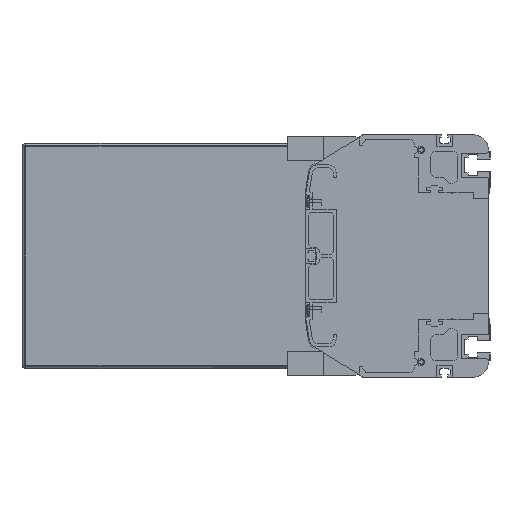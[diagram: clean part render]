
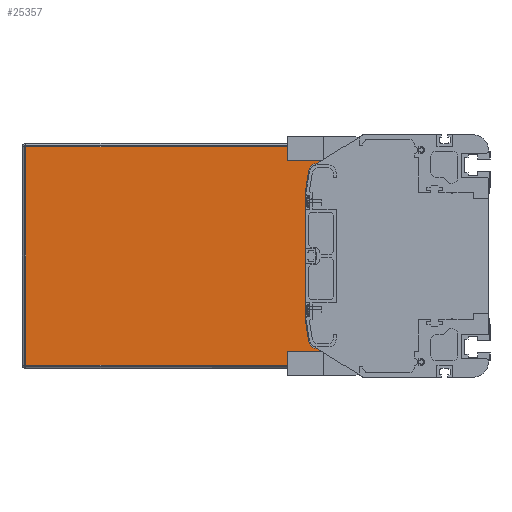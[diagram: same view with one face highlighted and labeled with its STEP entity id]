
A CAD part, left-side view. The second image highlights one B-rep face of the part: STEP entity #25357.
In plain terms, the highlighted planar face has unit normal (-1, 0, 0).
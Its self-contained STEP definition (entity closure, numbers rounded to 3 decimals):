
#1312=DIRECTION('',(0.,0.,-1.));
#1313=VECTOR('',#1312,11.);
#1314=CARTESIAN_POINT('',(3086.5,86.,-61.));
#1315=LINE('',#1314,#1313);
#1321=DIRECTION('',(0.,0.,-1.));
#1322=VECTOR('',#1321,11.);
#1323=CARTESIAN_POINT('',(3086.5,86.,72.));
#1324=LINE('',#1323,#1322);
#1334=DIRECTION('',(0.,-1.,0.));
#1335=VECTOR('',#1334,220.5);
#1336=CARTESIAN_POINT('',(3086.5,306.5,-72.));
#1337=LINE('',#1336,#1335);
#5360=DIRECTION('',(0.,1.,0.));
#5361=VECTOR('',#5360,28.728);
#5362=CARTESIAN_POINT('',(3086.5,86.,-61.));
#5363=LINE('',#5362,#5361);
#5368=CARTESIAN_POINT('',(3086.5,114.728,56.));
#5369=DIRECTION('',(-1.,0.,0.));
#5370=DIRECTION('',(0.,0.,1.));
#5371=AXIS2_PLACEMENT_3D('',#5368,#5369,#5370);
#5373=DIRECTION('',(0.,0.156,-0.988));
#5374=VECTOR('',#5373,14.963);
#5375=CARTESIAN_POINT('',(3086.5,119.666,56.78));
#5376=LINE('',#5375,#5374);
#5377=DIRECTION('',(0.,-0.156,-0.988));
#5378=VECTOR('',#5377,14.963);
#5379=CARTESIAN_POINT('',(3086.5,122.,-42.));
#5380=LINE('',#5379,#5378);
#5381=CARTESIAN_POINT('',(3086.5,114.728,-56.));
#5382=DIRECTION('',(-1.,0.,0.));
#5383=DIRECTION('',(0.,0.988,-0.156));
#5384=AXIS2_PLACEMENT_3D('',#5381,#5382,#5383);
#5390=DIRECTION('',(0.,0.,-1.));
#5391=VECTOR('',#5390,144.);
#5392=CARTESIAN_POINT('',(3086.5,306.5,72.));
#5393=LINE('',#5392,#5391);
#5559=DIRECTION('',(0.,1.,0.));
#5560=VECTOR('',#5559,220.5);
#5561=CARTESIAN_POINT('',(3086.5,86.,72.));
#5562=LINE('',#5561,#5560);
#6145=DIRECTION('',(0.,-1.,0.));
#6146=VECTOR('',#6145,28.728);
#6147=CARTESIAN_POINT('',(3086.5,114.728,61.));
#6148=LINE('',#6147,#6146);
#6161=DIRECTION('',(0.,0.,1.));
#6162=VECTOR('',#6161,84.);
#6163=CARTESIAN_POINT('',(3086.5,122.,-42.));
#6164=LINE('',#6163,#6162);
#16604=CARTESIAN_POINT('',(3086.5,306.5,-72.));
#16605=CARTESIAN_POINT('',(3086.5,86.,-72.));
#16606=VERTEX_POINT('',#16604);
#16607=VERTEX_POINT('',#16605);
#16608=CARTESIAN_POINT('',(3086.5,86.,-61.));
#16609=VERTEX_POINT('',#16608);
#16610=CARTESIAN_POINT('',(3086.5,114.728,-61.));
#16611=VERTEX_POINT('',#16610);
#16612=CARTESIAN_POINT('',(3086.5,119.666,-56.78));
#16613=VERTEX_POINT('',#16612);
#16614=CARTESIAN_POINT('',(3086.5,122.,-42.));
#16615=VERTEX_POINT('',#16614);
#16616=CARTESIAN_POINT('',(3086.5,122.,42.));
#16617=VERTEX_POINT('',#16616);
#16618=CARTESIAN_POINT('',(3086.5,119.666,56.78));
#16619=VERTEX_POINT('',#16618);
#16620=CARTESIAN_POINT('',(3086.5,114.728,61.));
#16621=VERTEX_POINT('',#16620);
#16622=CARTESIAN_POINT('',(3086.5,86.,61.));
#16623=VERTEX_POINT('',#16622);
#16624=CARTESIAN_POINT('',(3086.5,86.,72.));
#16625=VERTEX_POINT('',#16624);
#16626=CARTESIAN_POINT('',(3086.5,306.5,72.));
#16627=VERTEX_POINT('',#16626);
#25330=CARTESIAN_POINT('',(3086.5,196.25,0.));
#25331=DIRECTION('',(1.,0.,0.));
#25332=DIRECTION('',(0.,0.,-1.));
#25333=AXIS2_PLACEMENT_3D('',#25330,#25331,#25332);
#25334=PLANE('',#25333);
#25335=ORIENTED_EDGE('',*,*,#21361,.F.);
#25337=ORIENTED_EDGE('',*,*,#25336,.F.);
#25339=ORIENTED_EDGE('',*,*,#25338,.F.);
#25340=ORIENTED_EDGE('',*,*,#21343,.T.);
#25342=ORIENTED_EDGE('',*,*,#25341,.F.);
#25344=ORIENTED_EDGE('',*,*,#25343,.T.);
#25346=ORIENTED_EDGE('',*,*,#25345,.T.);
#25348=ORIENTED_EDGE('',*,*,#25347,.F.);
#25350=ORIENTED_EDGE('',*,*,#25349,.T.);
#25352=ORIENTED_EDGE('',*,*,#25351,.T.);
#25353=ORIENTED_EDGE('',*,*,#25322,.F.);
#25354=ORIENTED_EDGE('',*,*,#21311,.T.);
#25355=EDGE_LOOP('',(#25335,#25337,#25339,#25340,#25342,#25344,#25346,#25348,
#25350,#25352,#25353,#25354));
#25356=FACE_OUTER_BOUND('',#25355,.F.);
#25357=ADVANCED_FACE('',(#25356),#25334,.F.);
#5372=CIRCLE('',#5371,5.);
#5385=CIRCLE('',#5384,5.);
#21311=EDGE_CURVE('',#16609,#16607,#1315,.T.);
#21343=EDGE_CURVE('',#16625,#16623,#1324,.T.);
#21361=EDGE_CURVE('',#16606,#16607,#1337,.T.);
#25322=EDGE_CURVE('',#16609,#16611,#5363,.T.);
#25336=EDGE_CURVE('',#16627,#16606,#5393,.T.);
#25338=EDGE_CURVE('',#16625,#16627,#5562,.T.);
#25341=EDGE_CURVE('',#16621,#16623,#6148,.T.);
#25343=EDGE_CURVE('',#16621,#16619,#5372,.T.);
#25345=EDGE_CURVE('',#16619,#16617,#5376,.T.);
#25347=EDGE_CURVE('',#16615,#16617,#6164,.T.);
#25349=EDGE_CURVE('',#16615,#16613,#5380,.T.);
#25351=EDGE_CURVE('',#16613,#16611,#5385,.T.);
